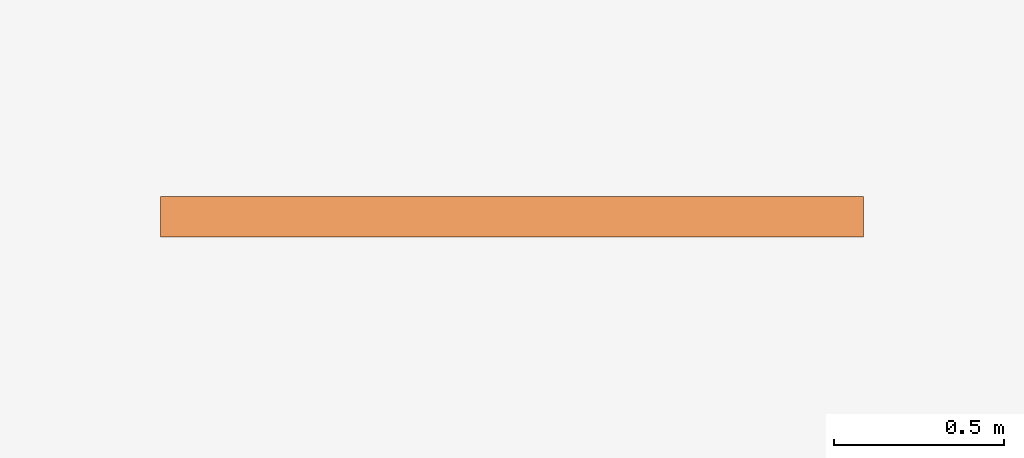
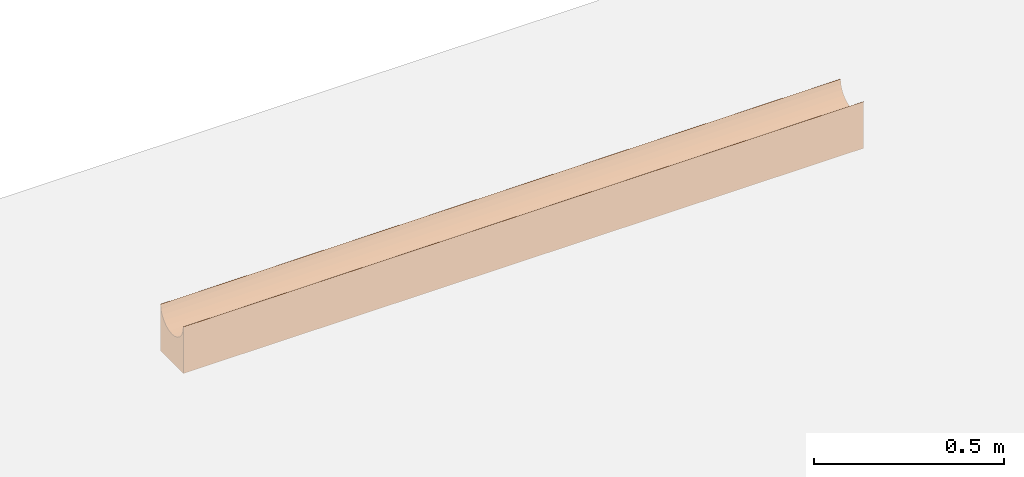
# One storey, part 9 of 9: 1 proxy.
"""IFC2X3 building model written with IfcOpenShell, lengths in metres."""

from ifc_helpers import new_model, entity, si_unit, converted_unit, direction, frame, origin, place, context, subcontext, project, spatial, faceted_brep, material, element, save


model = new_model("IFC2X3")

# Units and contexts
model_context = context("Model", 3, precision=1e-05, world=origin(), true_north=direction((-0.407059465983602, -0.913401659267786)))
body_context = subcontext(model_context, "Body", "Model", "MODEL_VIEW")
ifc_project = project(units=[si_unit("LENGTHUNIT", "METRE"), si_unit("AREAUNIT", "SQUARE_METRE"), si_unit("VOLUMEUNIT", "CUBIC_METRE"), si_unit("MASSUNIT", "GRAM", prefix="KILO"), converted_unit("PLANEANGLEUNIT", "DEGREE", entity("IfcPlaneAngleMeasure", 0.0174532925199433), si_unit("PLANEANGLEUNIT", "RADIAN"), dimensions=[0, 0, 0, 0, 0, 0, 0])], contexts=[model_context])

# Site, buildings, storey
site_placement = place(None, origin())
site = spatial("IfcSite", under=ifc_project, at=site_placement, Name="Site", CompositionType="ELEMENT")
building_1_placement = place(site_placement, origin())
building_1 = spatial("IfcBuilding", under=site, at=building_1_placement, Name="Site", CompositionType="COMPLEX")
building_2_placement = place(building_1_placement, origin())
building_2 = spatial("IfcBuilding", under=building_1, at=building_2_placement, Name="Bâtiments", CompositionType="ELEMENT")
storey_placement = place(building_2_placement, frame((0.0, 0.0, -7.1)))
storey = spatial("IfcBuildingStorey", under=building_2, at=storey_placement, Name="FONDATIONS", CompositionType="ELEMENT", Elevation=-7.1)

# Proxy
ifc_material = material(Name="Béton")
proxy_placement = place(storey_placement, frame((43.1496416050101, 15.3002841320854, 2.15)))
element("IfcBuildingElementProxy", 1, at=proxy_placement, inside=storey, material=ifc_material, Name="Cunette", context=body_context, shape_type="Brep", body=[
    faceted_brep([(2.06319539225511, 0.120000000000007, 0.0), (2.06319539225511, 7.27595761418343e-15, 0.0), (2.06319539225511, -7.67386154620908e-16, 0.15), (2.06319539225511, 0.00204445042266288, 0.134470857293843), (2.06319539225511, 0.00803847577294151, 0.119999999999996), (2.06319539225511, 0.0175735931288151, 0.107573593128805), (2.06319539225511, 0.0300000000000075, 0.0980384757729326), (2.06319539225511, 0.0444708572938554, 0.0920444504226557), (2.06319539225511, 0.0600000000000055, 0.0900000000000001), (2.06319539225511, 0.0755291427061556, 0.0920444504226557), (2.06319539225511, 0.0900000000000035, 0.0980384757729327), (2.06319539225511, 0.102426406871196, 0.107573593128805), (2.06319539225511, 0.11196152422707, 0.119999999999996), (2.06319539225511, 0.117955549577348, 0.134470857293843), (2.06319539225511, 0.119999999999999, 0.15), (-5.45696821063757e-15, 0.120000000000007, -5.6843418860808e-17), (0.0, 7.29727389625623e-15, -5.6843418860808e-17), (0.0, 0.120000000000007, 0.15), (0.0, 6.84252654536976e-15, 0.15), (0.0, 0.00204445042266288, 0.134470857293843), (0.0, 0.00803847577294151, 0.119999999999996), (0.0, 0.0175735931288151, 0.107573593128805), (0.0, 0.0300000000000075, 0.0980384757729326), (0.0, 0.0444708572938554, 0.0920444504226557), (0.0, 0.0600000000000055, 0.0900000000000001), (0.0, 0.0755291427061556, 0.0920444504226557), (0.0, 0.0900000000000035, 0.0980384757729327), (0.0, 0.102426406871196, 0.107573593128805), (0.0, 0.11196152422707, 0.119999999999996), (0.0, 0.117955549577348, 0.134470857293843)], [[[0, 1, 2, 3, 4, 5, 6, 7, 8, 9, 10, 11, 12, 13, 14]], [[15, 16, 1, 0]], [[0, 14, 17, 15]], [[16, 18, 2, 1]], [[2, 18, 19, 3]], [[3, 19, 20, 4]], [[4, 20, 21, 5]], [[5, 21, 22, 6]], [[6, 22, 23, 7]], [[7, 23, 24, 8]], [[8, 24, 25, 9]], [[9, 25, 26, 10]], [[10, 26, 27, 11]], [[11, 27, 28, 12]], [[12, 28, 29, 13]], [[13, 29, 17, 14]], [[18, 16, 15, 17, 29, 28, 27, 26, 25, 24, 23, 22, 21, 20, 19]]], orient=[[False], [False], [False], [False], [False], [False], [False], [False], [False], [False], [False], [False], [False], [False], [False], [False], [False]]),
])

save(model, "model.ifc")
